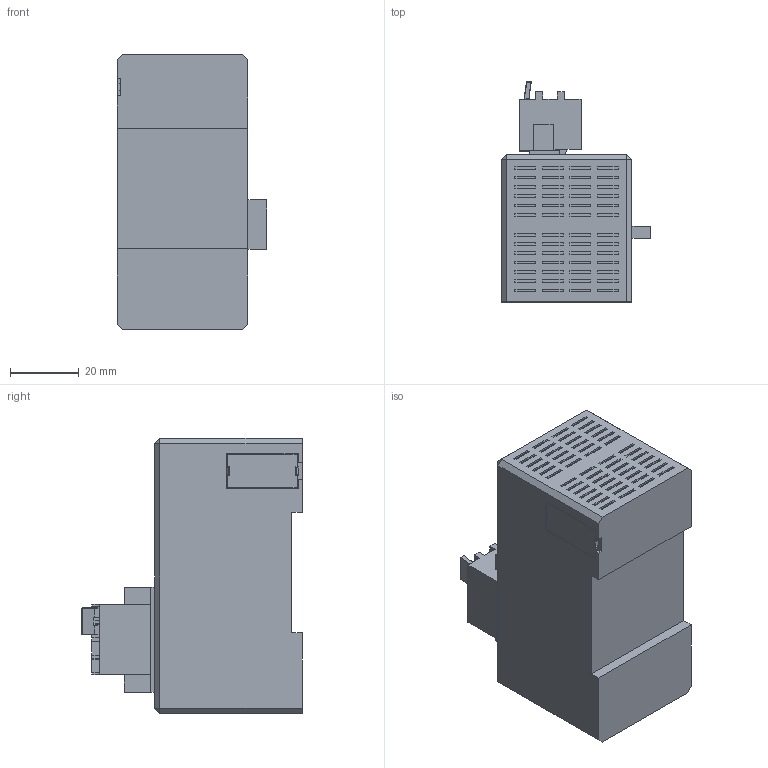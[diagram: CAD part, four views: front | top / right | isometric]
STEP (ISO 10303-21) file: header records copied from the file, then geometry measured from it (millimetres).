
FILE_DESCRIPTION (( 'STEP AP203' ), '1' );
FILE_NAME ('sc-hg1-485.STEP', '2016-04-19T23:30:18', ( '**********' ), ( '**********' ), 'SwSTEP 2.0', 'SolidWorks 2014', '' );
FILE_SCHEMA (( 'CONFIG_CONTROL_DESIGN' ));
Length unit declared in the file: millimetre
Products named in the file (5): short-plug; sc-hg1-485; body; connector1; cover
Assembly tree (4 placements, depth 2):
  sc-hg1-485
    body
    connector1
    cover
    short-plug
Bounding box: 43.5 x 64.05 x 80 mm (x, y, z)
Volume: 131087.7 mm3; surface area: 22210.9 mm2
Topology: 4 solids, 4 shells, 1174 faces, 2900 edges, 1876 vertices
Faces by surface type: plane 991, cylinder 149, sphere 26, torus 4, bspline 4
Entity records: 34495 total; most frequent: CARTESIAN_POINT 6045, ORIENTED_EDGE 5768, DIRECTION 5494, EDGE_CURVE 2884, LINE 2588, VECTOR 2588, VERTEX_POINT 1876, AXIS2_PLACEMENT_3D 1453
